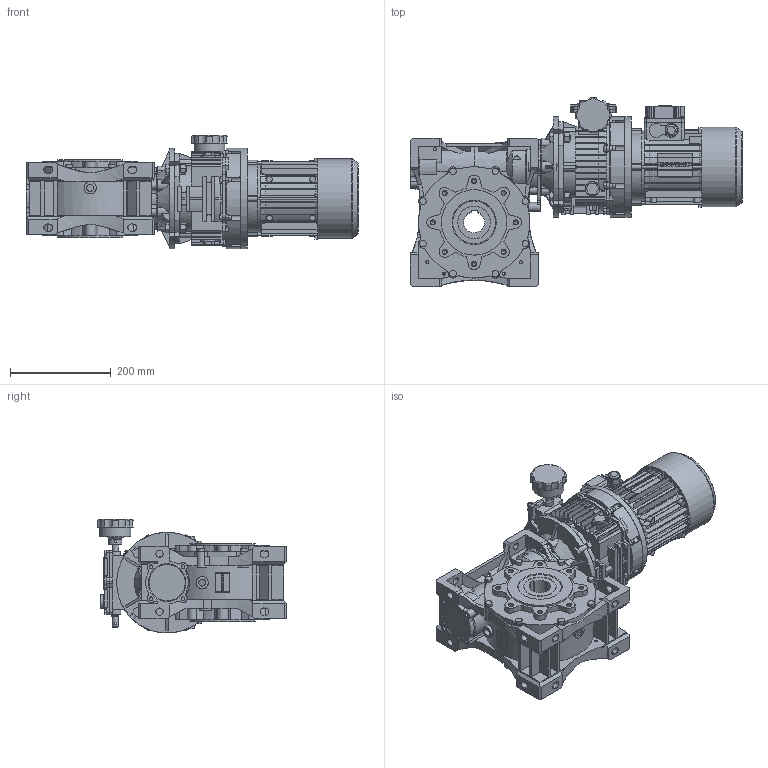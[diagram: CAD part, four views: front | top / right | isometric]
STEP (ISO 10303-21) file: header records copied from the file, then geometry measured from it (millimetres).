
FILE_DESCRIPTION(/* description */ ('STEP AP203'),/* implementation_level */ '2;1');
FILE_NAME(/* name */ 'TXF_NMRV-P_010_110_200x19_200x19_42_BS_B3_CM_1_AD_T_080_IC411_B5_A002_STD_1',/* time_stamp */ '2026-07-07T09:39:07+02:00',/* author */ ('License CC BY-ND 4.0'),/* organization */ ('CADENAS'),/* preprocessor_version */ 'ST-DEVELOPER v20',/* originating_system */ 'PARTsolutions',/* authorisation */ ' ');
FILE_SCHEMA (('CONFIG_CONTROL_DESIGN'));
Products named in the file (20): TXF/NMRV-P 010/110 200x19 200x19 42 BS/B3 CM 1 AD T 080 IC411 B5 A002
 STD 1; W.110.01.M; 110-42 (155); W.110.14.19.M-p; 11080 B5; 110-65; TXF010200x1920019x40CMAD1-T080-IC411B5--A002STD1-d; Body-6010012-TXF; 601006; 601003200(200x19); 601017; FLANGIA_T080B5-; CARCASSA_T-080IC411B519X40NONO--; COPRIMORSETTIERA_T080A002; PRESSACAVO_2; COPRIVENTOLA_T_080_IC411_NO_-_-_-_-_STD; ALBERO_T08019X40NO; 601027192(19x40); 601033(010); 60109942(010)
Assembly tree (19 placements, depth 2):
  TXF/NMRV-P 010/110 200x19 200x19 42 BS/B3 CM 1 AD T 080 IC411 B5 A002
 STD 1
    W.110.01.M
    110-42 (155)
    W.110.14.19.M-p
    11080 B5
    110-65
    TXF010200x1920019x40CMAD1-T080-IC411B5--A002STD1-d
    Body-6010012-TXF
    601006
    601003200(200x19)
    601017
    FLANGIA_T080B5-
    CARCASSA_T-080IC411B519X40NONO--
    COPRIMORSETTIERA_T080A002
    PRESSACAVO_2
    COPRIVENTOLA_T_080_IC411_NO_-_-_-_-_STD
    ALBERO_T08019X40NO
    601027192(19x40)
    601033(010)
    60109942(010)
Bounding box: 659.7 x 375.94 x 226.5 mm (x, y, z)
Volume: 15443969.5 mm3; surface area: 1494475.3 mm2
Topology: 18 solids, 22 shells, 4310 faces, 11903 edges, 7897 vertices
Faces by surface type: plane 2508, cylinder 1640, cone 151, torus 7, sphere 4
Full cylindrical faces by diameter (mm): 1.8 x1, 2.02 x1, 4 x3, 4.917 x2, 5 x4, 6 x18, 6.4 x2, 6.647 x4, 7.45 x12, 8 x4, 8.376 x16, 8.5 x6, 9 x1, 10 x16, 11 x4, 11.5 x4, 12 x2, 13 x8, 14 x10, 14.5 x2, 19 x2, 20 x3, 22 x1, 24 x2, 26 x2, 28 x2, 28.5 x2, 29 x1, 30 x2, 31 x1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
Entity records: 137612 total; most frequent: CARTESIAN_POINT 25784, DIRECTION 23475, ORIENTED_EDGE 23162, EDGE_CURVE 11581, AXIS2_PLACEMENT_3D 8116, VERTEX_POINT 7839, LINE 7243, VECTOR 7243
